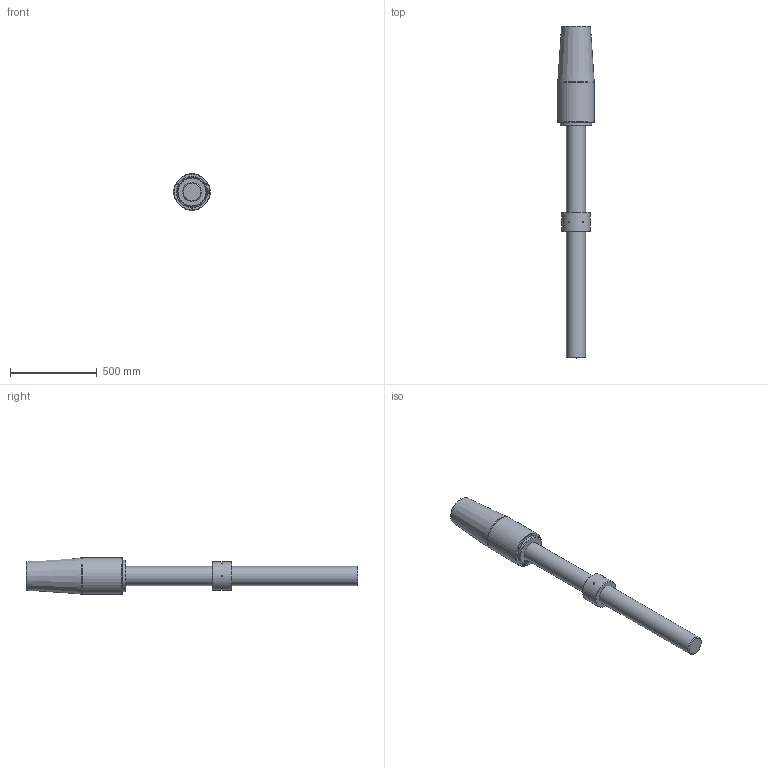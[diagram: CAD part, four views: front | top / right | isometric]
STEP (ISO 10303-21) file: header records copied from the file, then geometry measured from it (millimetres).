
FILE_DESCRIPTION(/* description */ (''),/* implementation_level */ '2;1');
FILE_NAME(/* name */ 'D:\Clienti\Redaelli (inventor)\CYB\STEP\Arrangement\CYB072 52 061 0.stp',/* time_stamp */ '2021-05-08T14:46:37+02:00',/* author */ ('fabri'),/* organization */ (''),/* preprocessor_version */ 'ST-DEVELOPER v16.13',/* originating_system */ 'Autodesk Inventor 2018',/* authorisation */ '');
FILE_SCHEMA (('AUTOMOTIVE_DESIGN { 1 0 10303 214 3 1 1 }'));
Length unit declared in the file: millimetre
Products named in the file (5): CYB072 52 061 0; RNT052 41 051 0_ROD; RNT052 41 051 0_ROD_1; CCY021-51-061-0_BUSH; CCY021-51-061-0
Assembly tree (4 placements, depth 2):
  CYB072 52 061 0
    RNT052 41 051 0_ROD
    RNT052 41 051 0_ROD_1
    CCY021-51-061-0_BUSH
    CCY021-51-061-0
Bounding box: 210 x 1914 x 210 mm (x, y, z)
Volume: 34628426.8 mm3; surface area: 1225274.6 mm2
Topology: 4 solids, 4 shells, 663 faces, 1776 edges, 1179 vertices
Faces by surface type: bspline 328, plane 297, cylinder 18, cone 16, torus 4
Full cylindrical faces by diameter (mm): 10 x6, 10.106 x3, 103.505 x2, 110 x1, 111 x1, 150 x1, 160 x1, 165 x1, 180 x1, 210 x1
Entity records: 22344 total; most frequent: CARTESIAN_POINT 8057, ORIENTED_EDGE 3454, DIRECTION 1791, EDGE_CURVE 1727, VERTEX_POINT 1169, LINE 1017, VECTOR 1017, EDGE_LOOP 764
